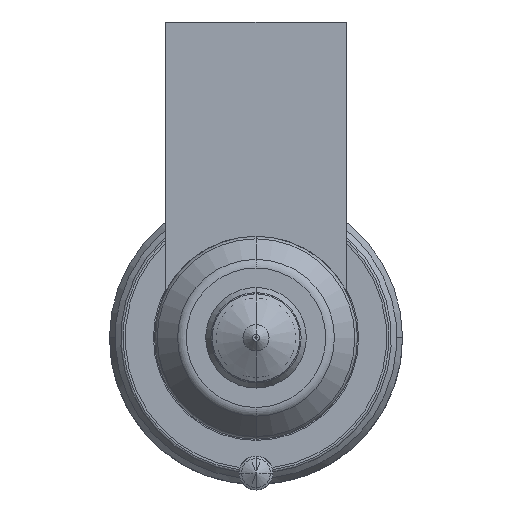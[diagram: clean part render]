
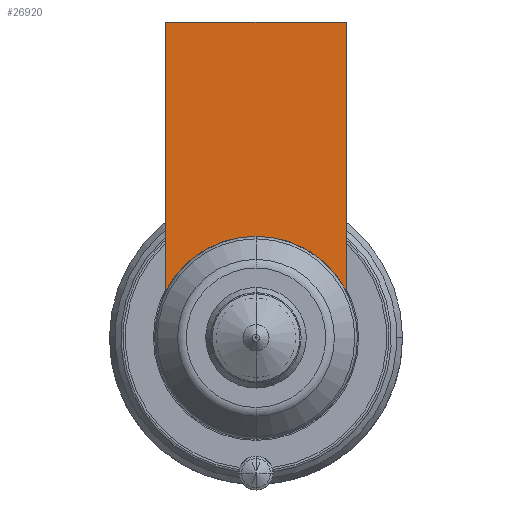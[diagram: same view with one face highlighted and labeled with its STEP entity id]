
A CAD part, front view. The second image highlights one B-rep face of the part: STEP entity #26920.
In plain terms, the highlighted planar face has unit normal (0, -1, 0).
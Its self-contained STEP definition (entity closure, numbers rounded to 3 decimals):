
#26109=CARTESIAN_POINT('',(0.,-54.,0.));
#26110=DIRECTION('',(0.,-1.,0.));
#26111=DIRECTION('',(0.,0.,1.));
#26112=AXIS2_PLACEMENT_3D('',#26109,#26110,#26111);
#26118=DIRECTION('',(1.,0.,0.));
#26119=VECTOR('',#26118,16.);
#26120=CARTESIAN_POINT('',(-8.,-54.,28.));
#26121=LINE('',#26120,#26119);
#26125=CARTESIAN_POINT('',(0.,-54.,0.));
#26126=DIRECTION('',(0.,-1.,0.));
#26127=DIRECTION('',(0.889,0.,0.458));
#26128=AXIS2_PLACEMENT_3D('',#26125,#26126,#26127);
#26278=DIRECTION('',(0.,0.,-1.));
#26279=VECTOR('',#26278,23.877);
#26280=CARTESIAN_POINT('',(8.,-54.,28.));
#26281=LINE('',#26280,#26279);
#26341=DIRECTION('',(0.,0.,-1.));
#26342=VECTOR('',#26341,23.877);
#26343=CARTESIAN_POINT('',(-8.,-54.,28.));
#26344=LINE('',#26343,#26342);
#26878=CARTESIAN_POINT('',(-8.,-54.,28.));
#26879=VERTEX_POINT('',#26878);
#26884=CARTESIAN_POINT('',(8.,-54.,28.));
#26885=VERTEX_POINT('',#26884);
#26890=CARTESIAN_POINT('',(0.,-54.,9.));
#26891=CARTESIAN_POINT('',(-8.,-54.,4.123));
#26892=VERTEX_POINT('',#26890);
#26893=VERTEX_POINT('',#26891);
#26894=CARTESIAN_POINT('',(8.,-54.,4.123));
#26895=VERTEX_POINT('',#26894);
#26903=CARTESIAN_POINT('',(0.,-54.,9.));
#26904=DIRECTION('',(0.,1.,0.));
#26905=DIRECTION('',(0.,0.,-1.));
#26906=AXIS2_PLACEMENT_3D('',#26903,#26904,#26905);
#26907=PLANE('',#26906);
#26909=ORIENTED_EDGE('',*,*,#26908,.T.);
#26911=ORIENTED_EDGE('',*,*,#26910,.F.);
#26913=ORIENTED_EDGE('',*,*,#26912,.T.);
#26915=ORIENTED_EDGE('',*,*,#26914,.T.);
#26917=ORIENTED_EDGE('',*,*,#26916,.T.);
#26918=EDGE_LOOP('',(#26909,#26911,#26913,#26915,#26917));
#26919=FACE_OUTER_BOUND('',#26918,.F.);
#26920=ADVANCED_FACE('',(#26919),#26907,.F.);
#26113=CIRCLE('',#26112,9.);
#26129=CIRCLE('',#26128,9.);
#26908=EDGE_CURVE('',#26892,#26893,#26113,.T.);
#26910=EDGE_CURVE('',#26879,#26893,#26344,.T.);
#26912=EDGE_CURVE('',#26879,#26885,#26121,.T.);
#26914=EDGE_CURVE('',#26885,#26895,#26281,.T.);
#26916=EDGE_CURVE('',#26895,#26892,#26129,.T.);
